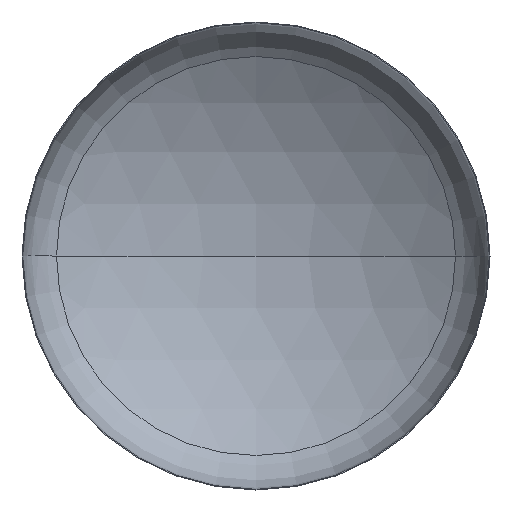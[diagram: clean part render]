
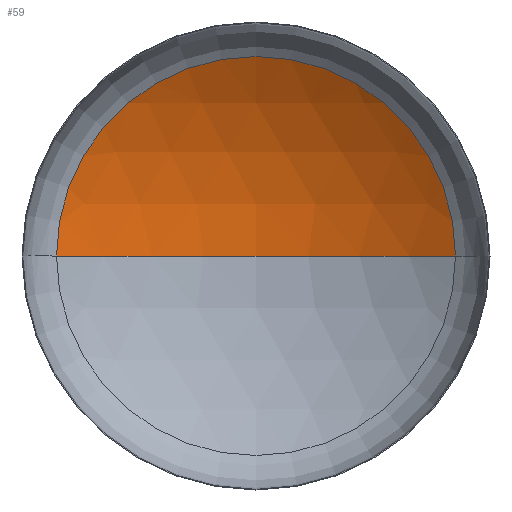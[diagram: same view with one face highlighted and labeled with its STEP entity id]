
A CAD part, front view. The second image highlights one B-rep face of the part: STEP entity #59.
In plain terms, the highlighted spherical face has radius 3600 mm.
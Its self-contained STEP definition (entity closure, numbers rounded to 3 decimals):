
#16 = VERTEX_POINT ( 'NONE', #323 ) ;
#27 = DIRECTION ( 'NONE',  ( 0., -1., 0. ) ) ;
#37 = EDGE_LOOP ( 'NONE', ( #96, #91, #57 ) ) ;
#39 = DIRECTION ( 'NONE',  ( 1., 0., 0. ) ) ;
#44 = EDGE_CURVE ( 'NONE', #70, #93, #257, .T. ) ;
#57 = ORIENTED_EDGE ( 'NONE', *, *, #44, .T. ) ;
#59 = ADVANCED_FACE ( 'NONE', ( #109 ), #322, .F. ) ;
#70 = VERTEX_POINT ( 'NONE', #394 ) ;
#91 = ORIENTED_EDGE ( 'NONE', *, *, #342, .T. ) ;
#93 = VERTEX_POINT ( 'NONE', #400 ) ;
#96 = ORIENTED_EDGE ( 'NONE', *, *, #344, .F. ) ;
#109 = FACE_OUTER_BOUND ( 'NONE', #37, .T. ) ;
#118 = DIRECTION ( 'NONE',  ( -1., 0., 0. ) ) ;
#188 = DIRECTION ( 'NONE',  ( 0., 0., -1. ) ) ;
#189 = CARTESIAN_POINT ( 'NONE',  ( 0., -2433.195, 0. ) ) ;
#193 = CARTESIAN_POINT ( 'NONE',  ( 0., -2433.195, 0. ) ) ;
#215 = CIRCLE ( 'NONE', #219, 3600. ) ;
#219 = AXIS2_PLACEMENT_3D ( 'NONE', #193, #277, #297 ) ;
#234 = AXIS2_PLACEMENT_3D ( 'NONE', #189, #188, #118 ) ;
#257 = CIRCLE ( 'NONE', #285, 1918.348 ) ;
#277 = DIRECTION ( 'NONE',  ( 0., 0., 1. ) ) ;
#285 = AXIS2_PLACEMENT_3D ( 'NONE', #361, #27, #39 ) ;
#297 = DIRECTION ( 'NONE',  ( 1., 0., 0. ) ) ;
#319 = AXIS2_PLACEMENT_3D ( 'NONE', #377, #376, #401 ) ;
#322 = SPHERICAL_SURFACE ( 'NONE', #319, 3600. ) ;
#323 = CARTESIAN_POINT ( 'NONE',  ( 0., 1166.805, 0. ) ) ;
#342 = EDGE_CURVE ( 'NONE', #16, #70, #350, .T. ) ;
#344 = EDGE_CURVE ( 'NONE', #16, #93, #215, .T. ) ;
#350 = CIRCLE ( 'NONE', #234, 3600. ) ;
#361 = CARTESIAN_POINT ( 'NONE',  ( 0., 613.105, 0. ) ) ;
#376 = DIRECTION ( 'NONE',  ( 0., 0., -1. ) ) ;
#377 = CARTESIAN_POINT ( 'NONE',  ( 0., -2433.195, 0. ) ) ;
#394 = CARTESIAN_POINT ( 'NONE',  ( 1918.348, 613.105, 0. ) ) ;
#400 = CARTESIAN_POINT ( 'NONE',  ( -1918.348, 613.105, 0. ) ) ;
#401 = DIRECTION ( 'NONE',  ( -1., 0., 0. ) ) ;
